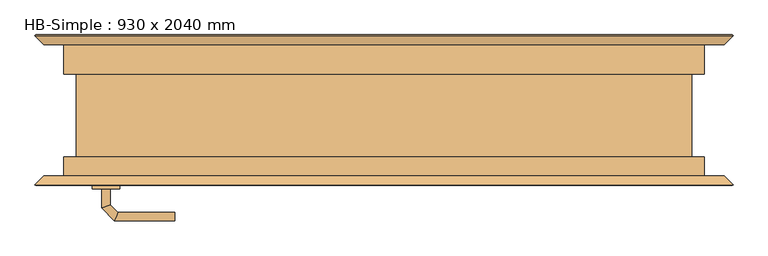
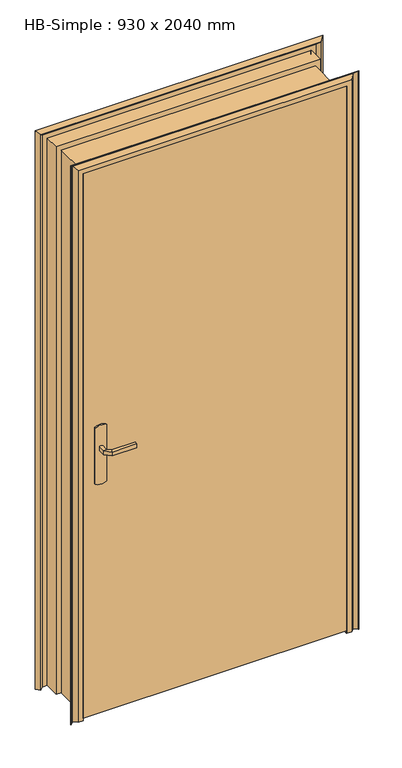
"""IFC4 building model written with IfcOpenShell, lengths in millimetres: door geometry, HB-Simple : 930 x 2040 mm."""

from ifc_helpers import new_model, si_unit, point, frame, frame_2d, origin, place, context, project, spatial, polyline, circle_curve, ellipse_curve, trimmed, segment, composite_curve, outline, extrude, faceted_brep, source, transform, mapped, element, save
from ifc_brep_helpers import plane_surface, cylinder_surface, advanced_brep


def hb_simple_930_x_2040_mm_d40e8eeb(model_context):
    return source(origin(), model_context, "Body", "SolidModel", [
        advanced_brep(
        [(-399.0, -65.0, 993.0), (-399.0, -65.0, 1007.0), (-411.0, -65.0, 1007.0), (-411.0, -65.0, 993.0), (-399.0, -42.5147955, 993.0), (-399.0, -42.5147955, 1007.0), (-411.0, -37.5442327, 1007.0), (-411.0, -37.5442327, 993.0), (-387.5147186, -31.0295141, 993.0), (-387.5147186, -31.0295141, 1007.0), (-392.4852814, -19.0295141, 1007.0), (-392.4852814, -19.0295141, 993.0), (-304.9542163, -31.0295141, 993.0), (-304.9542163, -19.0295141, 993.0), (-304.9542163, -19.0295141, 1007.0), (-304.9542163, -31.0295141, 1007.0)],
        [
            (0, 1),
            (1, 2, circle_curve(frame((-405.0, -65.0, 986.9542278), z_axis=(0.0, -1.0, 0.0), x_axis=(-1.0, 0.0, 0.0)), 20.9244589)),
            (2, 3),
            (3, 0, circle_curve(frame((-405.0, -65.0, 1013.0457722), z_axis=(0.0, -1.0, 0.0), x_axis=(-1.0, 0.0, 0.0)), 20.9244589)),
            (0, 4),
            (4, 5),
            (5, 1),
            (5, 6, ellipse_curve(frame((-405.0, -40.0295141, 986.9542278), z_axis=(-0.38268343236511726, -0.9238795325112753, 0.0), x_axis=(0.9238795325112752, -0.38268343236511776, 0.0)), 22.6484711, 20.9244589)),
            (6, 2),
            (6, 7),
            (7, 3),
            (7, 4, ellipse_curve(frame((-405.0, -40.0295141, 1013.0457722), z_axis=(-0.38268343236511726, -0.9238795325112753, 0.0), x_axis=(0.9238795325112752, -0.38268343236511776, 0.0)), 22.6484711, 20.9244589)),
            (4, 8),
            (8, 9),
            (9, 5),
            (9, 10, ellipse_curve(frame((-390.0, -25.0295141, 986.9542278), z_axis=(-0.9238795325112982, -0.38268343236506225, 0.0), x_axis=(0.3826834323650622, -0.9238795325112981, 0.0)), 22.6484711, 20.9244589)),
            (10, 6),
            (10, 11),
            (11, 7),
            (11, 8, ellipse_curve(frame((-390.0, -25.0295141, 1013.0457722), z_axis=(-0.9238795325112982, -0.38268343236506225, 0.0), x_axis=(0.3826834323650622, -0.9238795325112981, 0.0)), 22.6484711, 20.9244589)),
            (12, 13, circle_curve(frame((-304.9542163, -25.0295141, 1013.0457722), z_axis=(1.0, 0.0, 0.0), x_axis=(0.0, 1.0, 0.0)), 20.9244589)),
            (13, 14),
            (14, 15, circle_curve(frame((-304.9542163, -25.0295141, 986.9542278), z_axis=(1.0, 0.0, 0.0), x_axis=(0.0, 1.0, 0.0)), 20.9244589)),
            (15, 12),
            (8, 12),
            (15, 9),
            (14, 10),
            (13, 11),
        ],
        [
            plane_surface(frame((-414.2195445, -65.0, 1000.0), z_axis=(0.0, -1.0, 0.0), x_axis=(0.0, 0.0, 1.0))),
            plane_surface(frame((-399.0, -65.0, 993.0), z_axis=(1.0, 0.0, 0.0), x_axis=(0.0, 1.0, 0.0))),
            cylinder_surface(frame((-405.0, -65.0, 986.9542278), z_axis=(0.0, -1.0, 0.0), x_axis=(-1.0, 0.0, 0.0)), 20.9244589),
            plane_surface(frame((-411.0, -65.0, 1007.0), z_axis=(-1.0, 0.0, 0.0), x_axis=(0.0, 1.0, 0.0))),
            cylinder_surface(frame((-405.0, -65.0, 1013.0457722), z_axis=(0.0, -1.0, 0.0), x_axis=(-1.0, 0.0, 0.0)), 20.9244589),
            plane_surface(frame((-399.0, -42.5147955, 993.0), z_axis=(0.7071067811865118, -0.7071067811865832, 0.0), x_axis=(0.7071067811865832, 0.7071067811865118, 0.0))),
            cylinder_surface(frame((-405.0, -40.0295141, 986.9542278), z_axis=(-0.7071067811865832, -0.7071067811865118, 0.0), x_axis=(-0.7071067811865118, 0.7071067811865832, 0.0)), 20.9244589),
            plane_surface(frame((-411.0, -37.5442327, 1007.0), z_axis=(-0.7071067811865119, 0.7071067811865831, 0.0), x_axis=(0.7071067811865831, 0.7071067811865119, 0.0))),
            cylinder_surface(frame((-405.0, -40.0295141, 1013.0457722), z_axis=(-0.7071067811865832, -0.7071067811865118, 0.0), x_axis=(-0.7071067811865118, 0.7071067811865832, 0.0)), 20.9244589),
            plane_surface(frame((-304.9542163, -25.0295141, 990.7804555), z_axis=(1.0, 0.0, 0.0), x_axis=(0.0, 1.0, 0.0))),
            plane_surface(frame((-387.5147186, -31.0295141, 993.0), z_axis=(0.0, -1.0, 0.0), x_axis=(1.0, 0.0, 0.0))),
            cylinder_surface(frame((-390.0, -25.0295141, 986.9542278), z_axis=(-1.0, 0.0, 0.0), x_axis=(0.0, 1.0, 0.0)), 20.9244589),
            plane_surface(frame((-392.4852814, -19.0295141, 1007.0), z_axis=(0.0, 1.0, 0.0), x_axis=(1.0, 0.0, 0.0))),
            cylinder_surface(frame((-390.0, -25.0295141, 1013.0457722), z_axis=(-1.0, 0.0, 0.0), x_axis=(0.0, 1.0, 0.0)), 20.9244589),
        ],
        [
            (0, [[1, 2, 3, 4]]),
            (1, [[-1, 5, 6, 7]]),
            (2, [[-2, -7, 8, 9]]),
            (3, [[-3, -9, 10, 11]]),
            (4, [[-4, -11, 12, -5]]),
            (5, [[-6, 13, 14, 15]]),
            (6, [[-8, -15, 16, 17]]),
            (7, [[-10, -17, 18, 19]]),
            (8, [[-12, -19, 20, -13]]),
            (9, [[21, 22, 23, 24]]),
            (10, [[-14, 25, -24, 26]]),
            (11, [[-16, -26, -23, 27]]),
            (12, [[-18, -27, -22, 28]]),
            (13, [[-20, -28, -21, -25]]),
        ],
    ),
        advanced_brep(
        [(-411.0, -115.0, 1007.0), (-399.0, -115.0, 1007.0), (-399.0, -115.0, 993.0), (-411.0, -115.0, 993.0), (-411.0, -142.6509507, 1007.0), (-399.0, -137.680388, 1007.0), (-399.0, -137.680388, 993.0), (-411.0, -142.6509507, 993.0), (-392.62279, -161.0281607, 1007.0), (-387.6522273, -149.0281607, 1007.0), (-387.6522273, -149.0281607, 993.0), (-392.62279, -161.0281607, 993.0), (-304.9813594, -161.0281607, 1007.0), (-304.9813594, -161.0281607, 993.0), (-304.9813594, -149.0281607, 993.0), (-304.9813594, -149.0281607, 1007.0)],
        [
            (0, 1, circle_curve(frame((-405.0, -115.0, 986.9542278), z_axis=(0.0, 1.0, 0.0), x_axis=(1.0, 0.0, 0.0)), 20.9244589)),
            (1, 2),
            (2, 3, circle_curve(frame((-405.0, -115.0, 1013.0457722), z_axis=(0.0, 1.0, 0.0), x_axis=(1.0, 0.0, 0.0)), 20.9244589)),
            (3, 0),
            (0, 4),
            (4, 5, ellipse_curve(frame((-405.0, -140.1656693, 986.9542278), z_axis=(-0.3826834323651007, 0.9238795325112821, 0.0), x_axis=(0.9238795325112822, 0.3826834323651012, 0.0)), 22.6484711, 20.9244589)),
            (5, 1),
            (5, 6),
            (6, 2),
            (6, 7, ellipse_curve(frame((-405.0, -140.1656693, 1013.0457722), z_axis=(-0.3826834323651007, 0.9238795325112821, 0.0), x_axis=(0.9238795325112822, 0.3826834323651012, 0.0)), 22.6484711, 20.9244589)),
            (7, 3),
            (7, 4),
            (4, 8),
            (8, 9, ellipse_curve(frame((-390.1375086, -155.0281607, 986.9542278), z_axis=(-0.9238795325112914, 0.3826834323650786, 0.0), x_axis=(0.38268343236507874, 0.9238795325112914, 0.0)), 22.6484711, 20.9244589)),
            (9, 5),
            (9, 10),
            (10, 6),
            (10, 11, ellipse_curve(frame((-390.1375086, -155.0281607, 1013.0457722), z_axis=(-0.9238795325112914, 0.3826834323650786, 0.0), x_axis=(0.38268343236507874, 0.9238795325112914, 0.0)), 22.6484711, 20.9244589)),
            (11, 7),
            (11, 8),
            (12, 13),
            (13, 14, circle_curve(frame((-304.9813594, -155.0281607, 1013.0457722), z_axis=(1.0, 0.0, 0.0), x_axis=(0.0, 1.0, 0.0)), 20.9244589)),
            (14, 15),
            (15, 12, circle_curve(frame((-304.9813594, -155.0281607, 986.9542278), z_axis=(1.0, 0.0, 0.0), x_axis=(0.0, 1.0, 0.0)), 20.9244589)),
            (8, 12),
            (15, 9),
            (14, 10),
            (13, 11),
        ],
        [
            plane_surface(frame((-414.2195445, -115.0, 1000.0), z_axis=(0.0, 1.0, 0.0), x_axis=(0.0, 0.0, -1.0))),
            cylinder_surface(frame((-405.0, -115.0, 986.9542278), z_axis=(0.0, 1.0, 0.0), x_axis=(1.0, 0.0, 0.0)), 20.9244589),
            plane_surface(frame((-399.0, -115.0, 1007.0), z_axis=(1.0, 0.0, 0.0), x_axis=(0.0, -1.0, 0.0))),
            cylinder_surface(frame((-405.0, -115.0, 1013.0457722), z_axis=(0.0, 1.0, 0.0), x_axis=(1.0, 0.0, 0.0)), 20.9244589),
            plane_surface(frame((-411.0, -115.0, 993.0), z_axis=(-1.0, 0.0, 0.0), x_axis=(0.0, -1.0, 0.0))),
            cylinder_surface(frame((-405.0, -140.1656693, 986.9542278), z_axis=(-0.7071067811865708, 0.7071067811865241, 0.0), x_axis=(0.7071067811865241, 0.7071067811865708, 0.0)), 20.9244589),
            plane_surface(frame((-399.0, -137.680388, 1007.0), z_axis=(0.7071067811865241, 0.7071067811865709, 0.0), x_axis=(0.7071067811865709, -0.7071067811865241, 0.0))),
            cylinder_surface(frame((-405.0, -140.1656693, 1013.0457722), z_axis=(-0.7071067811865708, 0.7071067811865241, 0.0), x_axis=(0.7071067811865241, 0.7071067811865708, 0.0)), 20.9244589),
            plane_surface(frame((-411.0, -142.6509507, 993.0), z_axis=(-0.7071067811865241, -0.7071067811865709, 0.0), x_axis=(0.7071067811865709, -0.7071067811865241, 0.0))),
            plane_surface(frame((-304.9813594, -155.0281607, 990.7804555), z_axis=(1.0, 0.0, 0.0), x_axis=(0.0, 1.0, 0.0))),
            cylinder_surface(frame((-390.1375086, -155.0281607, 986.9542278), z_axis=(-1.0, 0.0, 0.0), x_axis=(0.0, 1.0, 0.0)), 20.9244589),
            plane_surface(frame((-387.6522273, -149.0281607, 1007.0), z_axis=(0.0, 1.0, 0.0), x_axis=(1.0, 0.0, 0.0))),
            cylinder_surface(frame((-390.1375086, -155.0281607, 1013.0457722), z_axis=(-1.0, 0.0, 0.0), x_axis=(0.0, 1.0, 0.0)), 20.9244589),
            plane_surface(frame((-392.62279, -161.0281607, 993.0), z_axis=(0.0, -1.0, 0.0), x_axis=(1.0, 0.0, 0.0))),
        ],
        [
            (0, [[1, 2, 3, 4]]),
            (1, [[-1, 5, 6, 7]]),
            (2, [[-2, -7, 8, 9]]),
            (3, [[-3, -9, 10, 11]]),
            (4, [[-4, -11, 12, -5]]),
            (5, [[-6, 13, 14, 15]]),
            (6, [[-8, -15, 16, 17]]),
            (7, [[-10, -17, 18, 19]]),
            (8, [[-12, -19, 20, -13]]),
            (9, [[21, 22, 23, 24]]),
            (10, [[-14, 25, -24, 26]]),
            (11, [[-16, -26, -23, 27]]),
            (12, [[-18, -27, -22, 28]]),
            (13, [[-20, -28, -21, -25]]),
        ],
    ),
        extrude(outline(composite_curve([segment(trimmed(circle_curve(frame_2d((1045.3589838, -405.0)), 40.0), [point((1080.0, -385.0))], [point((1080.0, -425.0))], False, "CARTESIAN"), True, "CONTINUOUS"), segment(polyline([(1080.0, -425.0), (870.0, -425.0)]), True, "CONTINUOUS"), segment(trimmed(circle_curve(frame_2d((904.6410162, -405.0)), 40.0), [point((870.0, -425.0))], [point((870.0, -385.0))], False, "CARTESIAN"), True, "CONTINUOUS"), segment(polyline([(870.0, -385.0), (1080.0, -385.0)]), True, "CONTINUOUS")], self_intersect=False)), frame((0.0, -70.0, 0.0), z_axis=(0.0, 1.0, 0.0), x_axis=(0.0, 0.0, 1.0)), (0.0, 0.0, 1.0), 5.0),
        extrude(outline(composite_curve([segment(trimmed(circle_curve(frame_2d((904.6410162, -405.0)), 40.0), [point((870.0, -425.0))], [point((870.0, -385.0))], False, "CARTESIAN"), True, "CONTINUOUS"), segment(polyline([(870.0, -385.0), (1080.0, -385.0)]), True, "CONTINUOUS"), segment(trimmed(circle_curve(frame_2d((1045.3589838, -405.0)), 40.0), [point((1080.0, -385.0))], [point((1080.0, -425.0))], False, "CARTESIAN"), True, "CONTINUOUS"), segment(polyline([(1080.0, -425.0), (870.0, -425.0)]), True, "CONTINUOUS")], self_intersect=False)), frame((0.0, -115.0, 0.0), z_axis=(0.0, 1.0, 0.0), x_axis=(0.0, 0.0, 1.0)), (0.0, 0.0, 1.0), 5.0),
        extrude(outline(polyline([(-465.0, -70.0), (465.0, -70.0), (465.0, -110.0), (-465.0, -110.0), (-465.0, -70.0)])), frame((0.0, 0.0, 10.0), z_axis=(0.0, 0.0, 1.0), x_axis=(1.0, 0.0, 0.0)), (0.0, 0.0, 1.0), 2030.0),
        faceted_brep([(483.5, -110.0, 0.0), (465.5201865, -110.0, 0.0), (465.0, -108.9798135, 0.0), (465.0, -70.0, 0.0), (447.5186374, -70.0, 0.0), (446.5, -68.9813626, 0.0), (446.5, 54.0454714, 0.0), (447.4545286, 55.0, 0.0), (465.0, 55.0, 0.0), (465.0, 108.9205021, 0.0), (465.5794979, 110.0, 0.0), (483.5, 110.0, 0.0), (495.5, 98.0, 0.0), (507.5, 110.0, 0.0), (508.5, 109.0, 0.0), (495.5, 96.0, 0.0), (483.5, 108.0, 0.0), (466.5, 108.0, 0.0), (466.5, 53.0, 0.0), (448.5, 53.0, 0.0), (448.5, -68.0, 0.0), (466.5, -68.0, 0.0), (466.5, -108.0, 0.0), (483.5, -108.0, 0.0), (495.5, -96.0, 0.0), (508.5, -109.0, 0.0), (507.5, -110.0, 0.0), (495.5, -98.0, 0.0), (483.5, -110.0, 2058.5), (-483.5, -110.0, 2058.5), (-483.5, -110.0, 0.0), (-465.5201865, -110.0, 0.0), (-465.5201865, -110.0, 2040.5201865), (465.5201865, -110.0, 2040.5201865), (465.0, -108.9798135, 2040.0), (465.0, -70.0, 2040.0), (-465.0, -70.0, 2040.0), (-465.0, -70.0, 0.0), (-447.5186374, -70.0, 0.0), (-447.5186374, -70.0, 2022.5186374), (447.5186374, -70.0, 2022.5186374), (446.5, -68.9813626, 2021.5), (446.5, 54.0454714, 2021.5), (447.4545286, 55.0, 2022.4545286), (-447.4545286, 55.0, 2022.4545286), (-447.4545286, 55.0, 0.0), (-465.0, 55.0, 0.0), (-465.0, 55.0, 2040.0), (465.0, 55.0, 2040.0), (465.0, 108.9205021, 2040.0), (465.5794979, 110.0, 2040.5794979), (-465.5794979, 110.0, 2040.5794979), (-465.5794979, 110.0, 0.0), (-483.5, 110.0, 0.0), (-483.5, 110.0, 2058.5), (483.5, 110.0, 2058.5), (495.5, 98.0, 2070.5), (507.5, 110.0, 2082.5), (508.5, 109.0, 2083.5), (495.5, 96.0, 2070.5), (483.5, 108.0, 2058.5), (-483.5, 108.0, 2058.5), (-483.5, 108.0, 0.0), (-466.5, 108.0, 0.0), (-466.5, 108.0, 2041.5), (466.5, 108.0, 2041.5), (466.5, 53.0, 2041.5), (-466.5, 53.0, 2041.5), (-466.5, 53.0, 0.0), (-448.5, 53.0, 0.0), (-448.5, 53.0, 2023.5), (448.5, 53.0, 2023.5), (448.5, -68.0, 2023.5), (-448.5, -68.0, 2023.5), (-448.5, -68.0, 0.0), (-466.5, -68.0, 0.0), (-466.5, -68.0, 2041.5), (466.5, -68.0, 2041.5), (466.5, -108.0, 2041.5), (-466.5, -108.0, 2041.5), (-466.5, -108.0, 0.0), (-483.5, -108.0, 0.0), (-483.5, -108.0, 2058.5), (483.5, -108.0, 2058.5), (495.5, -96.0, 2070.5), (508.5, -109.0, 2083.5), (507.5, -110.0, 2082.5), (495.5, -98.0, 2070.5), (-495.5, -98.0, 0.0), (-507.5, -110.0, 0.0), (-508.5, -109.0, 0.0), (-495.5, -96.0, 0.0), (-495.5, 96.0, 0.0), (-508.5, 109.0, 0.0), (-507.5, 110.0, 0.0), (-495.5, 98.0, 0.0), (-465.0, 108.9205021, 0.0), (-446.5, 54.0454714, 0.0), (-446.5, -68.9813626, 0.0), (-465.0, -108.9798135, 0.0), (-495.5, -98.0, 2070.5), (-507.5, -110.0, 2082.5), (-508.5, -109.0, 2083.5), (-495.5, -96.0, 2070.5), (-495.5, 96.0, 2070.5), (-508.5, 109.0, 2083.5), (-507.5, 110.0, 2082.5), (-495.5, 98.0, 2070.5), (-465.0, 108.9205021, 2040.0), (-446.5, 54.0454714, 2021.5), (-446.5, -68.9813626, 2021.5), (-465.0, -108.9798135, 2040.0)], [[[0, 1, 2, 3, 4, 5, 6, 7, 8, 9, 10, 11, 12, 13, 14, 15, 16, 17, 18, 19, 20, 21, 22, 23, 24, 25, 26, 27]], [[1, 0, 28, 29, 30, 31, 32, 33]], [[2, 1, 33, 34]], [[3, 2, 34, 35]], [[4, 3, 35, 36, 37, 38, 39, 40]], [[5, 4, 40, 41]], [[6, 5, 41, 42]], [[7, 6, 42, 43]], [[8, 7, 43, 44, 45, 46, 47, 48]], [[9, 8, 48, 49]], [[10, 9, 49, 50]], [[11, 10, 50, 51, 52, 53, 54, 55]], [[12, 11, 55, 56]], [[13, 12, 56, 57]], [[14, 13, 57, 58]], [[15, 14, 58, 59]], [[16, 15, 59, 60]], [[17, 16, 60, 61, 62, 63, 64, 65]], [[18, 17, 65, 66]], [[19, 18, 66, 67, 68, 69, 70, 71]], [[20, 19, 71, 72]], [[21, 20, 72, 73, 74, 75, 76, 77]], [[22, 21, 77, 78]], [[23, 22, 78, 79, 80, 81, 82, 83]], [[24, 23, 83, 84]], [[25, 24, 84, 85]], [[26, 25, 85, 86]], [[27, 26, 86, 87]], [[0, 27, 87, 28]], [[30, 88, 89, 90, 91, 81, 80, 75, 74, 69, 68, 63, 62, 92, 93, 94, 95, 53, 52, 96, 46, 45, 97, 98, 38, 37, 99, 31]], [[29, 100, 88, 30]], [[100, 101, 89, 88]], [[101, 102, 90, 89]], [[102, 103, 91, 90]], [[103, 82, 81, 91]], [[79, 76, 75, 80]], [[73, 70, 69, 74]], [[67, 64, 63, 68]], [[61, 104, 92, 62]], [[104, 105, 93, 92]], [[105, 106, 94, 93]], [[106, 107, 95, 94]], [[107, 54, 53, 95]], [[51, 108, 96, 52]], [[108, 47, 46, 96]], [[44, 109, 97, 45]], [[109, 110, 98, 97]], [[110, 39, 38, 98]], [[36, 111, 99, 37]], [[111, 32, 31, 99]], [[35, 34, 111, 36]], [[42, 41, 110, 109]], [[49, 48, 47, 108]], [[66, 65, 64, 67]], [[72, 71, 70, 73]], [[78, 77, 76, 79]], [[34, 33, 32, 111]], [[41, 40, 39, 110]], [[43, 42, 109, 44]], [[50, 49, 108, 51]], [[56, 55, 54, 107]], [[57, 56, 107, 106]], [[58, 57, 106, 105]], [[59, 58, 105, 104]], [[60, 59, 104, 61]], [[84, 83, 82, 103]], [[85, 84, 103, 102]], [[86, 85, 102, 101]], [[87, 86, 101, 100]], [[28, 87, 100, 29]]]),
    ])


if __name__ == "__main__":
    model = new_model("IFC4")
    model_context = context("Model", 3, world=origin())
    ifc_project = project(units=[si_unit("LENGTHUNIT", "METRE", prefix="MILLI")], contexts=[model_context])
    site = spatial("IfcSite", under=ifc_project)
    building = spatial("IfcBuilding", under=site)
    placement = place(None, origin())
    hb_simple_930_x_2040_mm_shape = hb_simple_930_x_2040_mm_d40e8eeb(model_context)
    element("IfcDoor", 1, ObjectType="HB-Simple : 930 x 2040 mm", at=placement, inside=building, context=model_context, shape_type="MappedRepresentation", body=[
        mapped(hb_simple_930_x_2040_mm_shape, transform((0.0, 0.0, 0.0), x_axis=(1.0, 0.0, 0.0), y_axis=(0.0, 1.0, 0.0), z_axis=(0.0, 0.0, 1.0))),
    ])
    save(model, "model.ifc")
